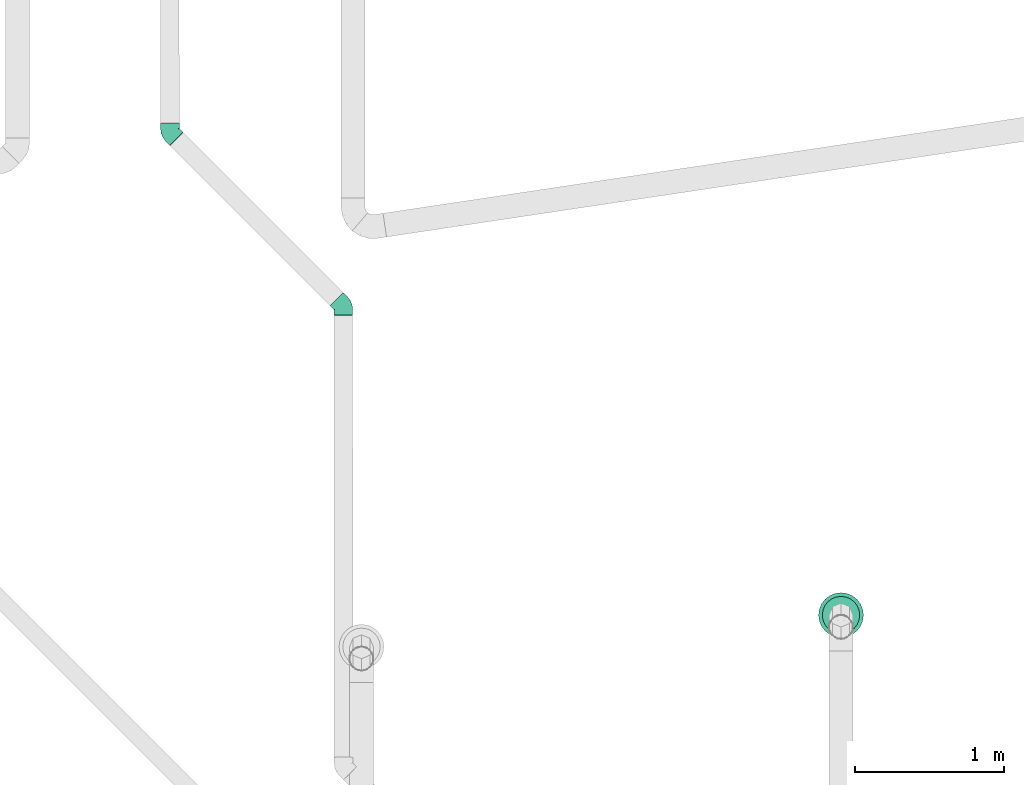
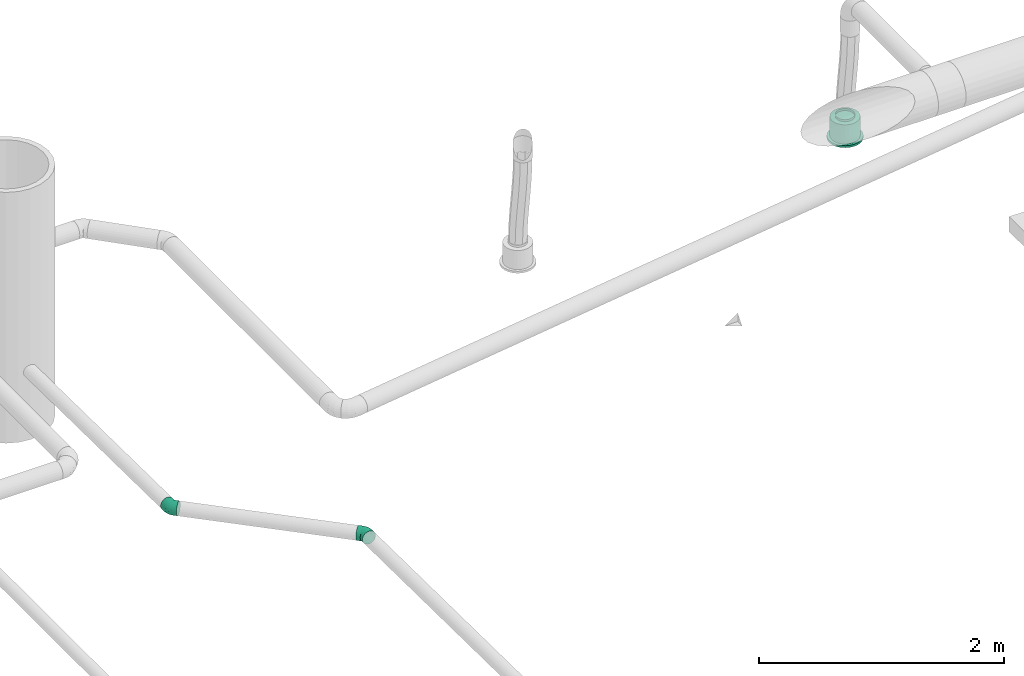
# One storey, part 156 of 374: 2 flow fittings, 1 flow terminal.
"""IFC2X3 building model written with IfcOpenShell, lengths in metres."""

from ifc_helpers import new_model, si_unit, direction, origin, place, context, subcontext, project, spatial, open_shell, surface_model, source, transform, mapped, element, save


model = new_model("IFC2X3")

# Units and contexts
model_context = context("Model", 3, precision=1e-05, world=origin(), true_north=direction((-0.4480736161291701, 0.8939966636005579)))
body_context = subcontext(model_context, "Body", "Model", "MODEL_VIEW")
ifc_project = project(units=[si_unit("LENGTHUNIT", "METRE"), si_unit("AREAUNIT", "SQUARE_METRE"), si_unit("VOLUMEUNIT", "CUBIC_METRE"), si_unit("PLANEANGLEUNIT", "RADIAN"), si_unit("THERMODYNAMICTEMPERATUREUNIT", "KELVIN"), si_unit("MASSUNIT", "GRAM", prefix="KILO"), si_unit("TIMEUNIT", "SECOND")], contexts=[model_context])

# Site, building, storey
site_placement = place(None, origin())
site = spatial("IfcSite", under=ifc_project, at=site_placement, Name="Site 1", CompositionType="ELEMENT")
building_placement = place(site_placement, origin())
building = spatial("IfcBuilding", under=site, at=building_placement, Name="Undefined", CompositionType="ELEMENT")
storey_placement = place(building_placement, origin())
storey = spatial("IfcBuildingStorey", under=building, at=storey_placement, Name="Rez de chauss\x8ee", CompositionType="ELEMENT", Elevation=0.0)

# Flow terminal
shared_shape_1 = source(origin(), body_context, "Body", "SurfaceModel", [
    surface_model("IfcFaceBasedSurfaceModel", [(0.0, 0.0, 0.0), (0.03915785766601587, 0.0, 0.0), (0.03915785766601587, 0.020000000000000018, 0.0), (3.552713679e-15, 0.020000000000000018, 0.0), (0.07698144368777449, 0.0, -0.010134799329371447), (0.07698144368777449, 0.020000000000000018, -0.010134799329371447), (0.11089314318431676, 0.0, -0.02971372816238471), (0.11089314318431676, 0.020000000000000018, -0.02971372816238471), (0.13858192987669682, 0.0, -0.05740251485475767), (0.13858192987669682, 0.020000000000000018, -0.05740251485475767), (0.15816085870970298, 0.0, -0.09131421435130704), (0.15816085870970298, 0.020000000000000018, -0.09131421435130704), (0.16829565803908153, 0.0, -0.12913780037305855), (0.16829565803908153, 0.020000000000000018, -0.12913780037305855), (0.16829565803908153, 0.0, -0.16829565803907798), (0.16829565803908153, 0.020000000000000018, -0.16829565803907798), (0.15816085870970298, 0.0, -0.20611924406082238), (0.15816085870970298, 0.020000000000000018, -0.20611924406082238), (0.13858192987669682, 0.0, -0.24003094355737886), (0.13858192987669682, 0.020000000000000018, -0.24003094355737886), (0.11089314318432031, 0.0, -0.2677197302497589), (0.11089314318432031, 0.020000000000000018, -0.2677197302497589), (0.07698144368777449, 0.0, -0.2872986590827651), (0.07698144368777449, 0.020000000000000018, -0.2872986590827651), (0.039157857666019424, 0.0, -0.29743345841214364), (0.039157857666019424, 0.020000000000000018, -0.29743345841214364), (3.552713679e-15, 0.0, -0.29743345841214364), (3.552713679e-15, 0.020000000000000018, -0.29743345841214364), (-0.03782358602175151, 0.0, -0.2872986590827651), (-0.03782358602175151, 0.020000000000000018, -0.2872986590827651), (-0.07173528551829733, 0.0, -0.2677197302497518), (-0.07173528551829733, 0.020000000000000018, -0.2677197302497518), (-0.0994240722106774, 0.0, -0.24003094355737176), (-0.0994240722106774, 0.020000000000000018, -0.24003094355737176), (-0.11900300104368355, 0.0, -0.2061192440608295), (-0.11900300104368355, 0.020000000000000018, -0.2061192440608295), (-0.1291378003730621, 0.0, -0.16829565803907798), (-0.1291378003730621, 0.020000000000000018, -0.16829565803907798), (-0.1291378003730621, 0.0, -0.12913780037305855), (-0.1291378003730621, 0.020000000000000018, -0.12913780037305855), (-0.11900300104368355, 0.0, -0.09131421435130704), (-0.11900300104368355, 0.020000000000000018, -0.09131421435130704), (-0.0994240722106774, 0.0, -0.05740251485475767), (-0.0994240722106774, 0.020000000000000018, -0.05740251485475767), (-0.07173528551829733, 0.0, -0.029713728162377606), (-0.07173528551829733, 0.020000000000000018, -0.029713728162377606), (-0.03782358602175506, 0.0, -0.010134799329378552), (-0.03782358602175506, 0.020000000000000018, -0.010134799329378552), (0.019578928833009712, 0.0, -0.14871672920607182), (0.019578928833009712, 0.020000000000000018, -0.14871672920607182), (0.003263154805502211, 0.020000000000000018, -0.02478612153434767), (0.035894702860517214, 0.020000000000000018, -0.02478612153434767), (0.035894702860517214, 0.20999999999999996, -0.02478612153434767), (0.003263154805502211, 0.20999999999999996, -0.02478612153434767), (0.06741435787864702, 0.020000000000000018, -0.033231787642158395), (0.06741435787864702, 0.20999999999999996, -0.033231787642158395), (0.0956741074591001, 0.020000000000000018, -0.04954756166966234), (0.0956741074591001, 0.20999999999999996, -0.04954756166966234), (0.11874809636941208, 0.020000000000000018, -0.07262155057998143), (0.11874809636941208, 0.20999999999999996, -0.07262155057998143), (0.13506387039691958, 0.020000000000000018, -0.10088130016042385), (0.13506387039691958, 0.20999999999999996, -0.10088130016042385), (0.1435095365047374, 0.020000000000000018, -0.13240095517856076), (0.1435095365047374, 0.20999999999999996, -0.13240095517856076), (0.1435095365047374, 0.020000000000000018, -0.16503250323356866), (0.1435095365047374, 0.20999999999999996, -0.16503250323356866), (0.13506387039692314, 0.020000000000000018, -0.19655215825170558), (0.13506387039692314, 0.20999999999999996, -0.19655215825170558), (0.11874809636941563, 0.020000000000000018, -0.2248119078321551), (0.11874809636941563, 0.20999999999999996, -0.2248119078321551), (0.09567410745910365, 0.020000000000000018, -0.24788589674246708), (0.09567410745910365, 0.20999999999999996, -0.24788589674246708), (0.06741435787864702, 0.020000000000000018, -0.26420167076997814), (0.06741435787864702, 0.20999999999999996, -0.26420167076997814), (0.035894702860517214, 0.020000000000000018, -0.27264733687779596), (0.035894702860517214, 0.20999999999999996, -0.27264733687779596), (0.0032631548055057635, 0.020000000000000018, -0.27264733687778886), (0.0032631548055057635, 0.20999999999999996, -0.27264733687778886), (-0.028256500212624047, 0.020000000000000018, -0.26420167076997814), (-0.028256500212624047, 0.20999999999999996, -0.26420167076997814), (-0.05651624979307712, 0.020000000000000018, -0.2478858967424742), (-0.05651624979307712, 0.20999999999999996, -0.2478858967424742), (-0.07959023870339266, 0.020000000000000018, -0.2248119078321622), (-0.07959023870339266, 0.20999999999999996, -0.2248119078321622), (-0.09590601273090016, 0.020000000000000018, -0.19655215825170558), (-0.09590601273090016, 0.20999999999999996, -0.19655215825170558), (-0.10435167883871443, 0.020000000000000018, -0.16503250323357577), (-0.10435167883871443, 0.20999999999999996, -0.16503250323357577), (-0.10435167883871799, 0.020000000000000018, -0.13240095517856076), (-0.10435167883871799, 0.20999999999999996, -0.13240095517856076), (-0.09590601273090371, 0.020000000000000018, -0.10088130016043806), (-0.09590601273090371, 0.20999999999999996, -0.10088130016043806), (-0.07959023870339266, 0.020000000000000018, -0.07262155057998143), (-0.07959023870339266, 0.20999999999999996, -0.07262155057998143), (-0.056516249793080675, 0.020000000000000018, -0.04954756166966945), (-0.056516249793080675, 0.20999999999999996, -0.04954756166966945), (-0.028256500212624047, 0.020000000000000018, -0.033231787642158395), (-0.028256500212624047, 0.20999999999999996, -0.033231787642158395), (0.019578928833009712, 0.20999999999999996, -0.14871672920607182), (0.009136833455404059, 0.20999999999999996, -0.06940114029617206), (0.030021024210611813, 0.20999999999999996, -0.06940114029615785), (0.030021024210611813, 0.22999999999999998, -0.06940114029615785), (0.009136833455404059, 0.22999999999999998, -0.06940114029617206), (0.05019360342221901, 0.20999999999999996, -0.07480636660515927), (0.05019360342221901, 0.22999999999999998, -0.07480636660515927), (0.06827984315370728, 0.20999999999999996, -0.08524846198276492), (0.06827984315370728, 0.22999999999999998, -0.08524846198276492), (0.0830471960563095, 0.20999999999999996, -0.10001581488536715), (0.0830471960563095, 0.22999999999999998, -0.10001581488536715), (0.0934892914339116, 0.20999999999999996, -0.11810205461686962), (0.0934892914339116, 0.22999999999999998, -0.11810205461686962), (0.09889451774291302, 0.20999999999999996, -0.13827463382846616), (0.09889451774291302, 0.22999999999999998, -0.13827463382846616), (0.09889451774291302, 0.20999999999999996, -0.15915882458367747), (0.09889451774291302, 0.22999999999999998, -0.15915882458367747), (0.09348929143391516, 0.20999999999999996, -0.179331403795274), (0.09348929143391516, 0.22999999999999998, -0.179331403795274), (0.0830471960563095, 0.20999999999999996, -0.19741764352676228), (0.0830471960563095, 0.22999999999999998, -0.19741764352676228), (0.06827984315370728, 0.20999999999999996, -0.2121849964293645), (0.06827984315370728, 0.22999999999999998, -0.2121849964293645), (0.05019360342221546, 0.20999999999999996, -0.22262709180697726), (0.05019360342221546, 0.22999999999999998, -0.22262709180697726), (0.030021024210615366, 0.20999999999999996, -0.22803231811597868), (0.030021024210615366, 0.22999999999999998, -0.22803231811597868), (0.009136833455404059, 0.20999999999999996, -0.22803231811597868), (0.009136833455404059, 0.22999999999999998, -0.22803231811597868), (-0.011035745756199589, 0.20999999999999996, -0.22262709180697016), (-0.011035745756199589, 0.22999999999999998, -0.22262709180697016), (-0.0291219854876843, 0.20999999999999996, -0.2121849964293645), (-0.0291219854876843, 0.22999999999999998, -0.2121849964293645), (-0.043889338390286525, 0.20999999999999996, -0.19741764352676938), (-0.043889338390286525, 0.22999999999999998, -0.19741764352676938), (-0.05433143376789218, 0.20999999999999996, -0.17933140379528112), (-0.05433143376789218, 0.22999999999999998, -0.17933140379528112), (-0.05973666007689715, 0.20999999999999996, -0.15915882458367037), (-0.05973666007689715, 0.22999999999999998, -0.15915882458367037), (-0.0597366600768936, 0.20999999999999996, -0.13827463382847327), (-0.0597366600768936, 0.22999999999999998, -0.13827463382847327), (-0.05433143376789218, 0.20999999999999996, -0.11810205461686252), (-0.05433143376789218, 0.22999999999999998, -0.11810205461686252), (-0.043889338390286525, 0.20999999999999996, -0.10001581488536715), (-0.043889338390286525, 0.22999999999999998, -0.10001581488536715), (-0.02912198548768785, 0.20999999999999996, -0.08524846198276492), (-0.02912198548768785, 0.22999999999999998, -0.08524846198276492), (-0.011035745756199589, 0.20999999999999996, -0.07480636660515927), (-0.011035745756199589, 0.22999999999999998, -0.07480636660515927)], [open_shell([[[0, 1, 2, 3]], [[1, 4, 5, 2]], [[4, 6, 7, 5]], [[6, 8, 9, 7]], [[8, 10, 11, 9]], [[10, 12, 13, 11]], [[12, 14, 15, 13]], [[14, 16, 17, 15]], [[16, 18, 19, 17]], [[18, 20, 21, 19]], [[20, 22, 23, 21]], [[22, 24, 25, 23]], [[24, 26, 27, 25]], [[26, 28, 29, 27]], [[28, 30, 31, 29]], [[30, 32, 33, 31]], [[32, 34, 35, 33]], [[34, 36, 37, 35]], [[36, 38, 39, 37]], [[38, 40, 41, 39]], [[40, 42, 43, 41]], [[42, 44, 45, 43]], [[44, 46, 47, 45]], [[46, 0, 3, 47]], [[48, 1, 0]], [[48, 4, 1]], [[48, 6, 4]], [[48, 8, 6]], [[48, 10, 8]], [[48, 12, 10]], [[48, 14, 12]], [[48, 16, 14]], [[48, 18, 16]], [[48, 20, 18]], [[48, 22, 20]], [[48, 24, 22]], [[48, 26, 24]], [[48, 28, 26]], [[48, 30, 28]], [[48, 32, 30]], [[48, 34, 32]], [[48, 36, 34]], [[48, 38, 36]], [[48, 40, 38]], [[48, 42, 40]], [[48, 44, 42]], [[48, 46, 44]], [[48, 0, 46]], [[49, 47, 3]], [[49, 45, 47]], [[49, 43, 45]], [[49, 41, 43]], [[49, 39, 41]], [[49, 37, 39]], [[49, 35, 37]], [[49, 33, 35]], [[49, 31, 33]], [[49, 29, 31]], [[49, 27, 29]], [[49, 25, 27]], [[49, 23, 25]], [[49, 21, 23]], [[49, 19, 21]], [[49, 17, 19]], [[49, 15, 17]], [[49, 13, 15]], [[49, 11, 13]], [[49, 9, 11]], [[49, 7, 9]], [[49, 5, 7]], [[49, 2, 5]], [[49, 3, 2]], [[50, 51, 52, 53]], [[51, 54, 55, 52]], [[54, 56, 57, 55]], [[56, 58, 59, 57]], [[58, 60, 61, 59]], [[60, 62, 63, 61]], [[62, 64, 65, 63]], [[64, 66, 67, 65]], [[66, 68, 69, 67]], [[68, 70, 71, 69]], [[70, 72, 73, 71]], [[72, 74, 75, 73]], [[74, 76, 77, 75]], [[76, 78, 79, 77]], [[78, 80, 81, 79]], [[80, 82, 83, 81]], [[82, 84, 85, 83]], [[84, 86, 87, 85]], [[86, 88, 89, 87]], [[88, 90, 91, 89]], [[90, 92, 93, 91]], [[92, 94, 95, 93]], [[94, 96, 97, 95]], [[96, 50, 53, 97]], [[49, 51, 50]], [[49, 54, 51]], [[49, 56, 54]], [[49, 58, 56]], [[49, 60, 58]], [[49, 62, 60]], [[49, 64, 62]], [[49, 66, 64]], [[49, 68, 66]], [[49, 70, 68]], [[49, 72, 70]], [[49, 74, 72]], [[49, 76, 74]], [[49, 78, 76]], [[49, 80, 78]], [[49, 82, 80]], [[49, 84, 82]], [[49, 86, 84]], [[49, 88, 86]], [[49, 90, 88]], [[49, 92, 90]], [[49, 94, 92]], [[49, 96, 94]], [[49, 50, 96]], [[98, 97, 53]], [[98, 95, 97]], [[98, 93, 95]], [[98, 91, 93]], [[98, 89, 91]], [[98, 87, 89]], [[98, 85, 87]], [[98, 83, 85]], [[98, 81, 83]], [[98, 79, 81]], [[98, 77, 79]], [[98, 75, 77]], [[98, 73, 75]], [[98, 71, 73]], [[98, 69, 71]], [[98, 67, 69]], [[98, 65, 67]], [[98, 63, 65]], [[98, 61, 63]], [[98, 59, 61]], [[98, 57, 59]], [[98, 55, 57]], [[98, 52, 55]], [[98, 53, 52]], [[99, 100, 101, 102]], [[100, 103, 104, 101]], [[103, 105, 106, 104]], [[105, 107, 108, 106]], [[107, 109, 110, 108]], [[109, 111, 112, 110]], [[111, 113, 114, 112]], [[113, 115, 116, 114]], [[115, 117, 118, 116]], [[117, 119, 120, 118]], [[119, 121, 122, 120]], [[121, 123, 124, 122]], [[123, 125, 126, 124]], [[125, 127, 128, 126]], [[127, 129, 130, 128]], [[129, 131, 132, 130]], [[131, 133, 134, 132]], [[133, 135, 136, 134]], [[135, 137, 138, 136]], [[137, 139, 140, 138]], [[139, 141, 142, 140]], [[141, 143, 144, 142]], [[143, 145, 146, 144]], [[145, 99, 102, 146]]])]),
])
flow_terminal_placement = place(storey_placement, origin())
element("IfcFlowTerminal", 1, at=flow_terminal_placement, inside=storey, Name="Air diffuseur - bouche", ObjectType="Air diffuseur - bouche", context=body_context, shape_type="MappedRepresentation", body=[
    mapped(shared_shape_1, transform((41.5011844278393, 21.928913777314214, 2.38), x_axis=(0.9914448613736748, 0.13052619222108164, 0.0), y_axis=(0.0, 0.0, 1.0), z_axis=(0.13052619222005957, -0.9914448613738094, 0.0))),
])

# Flow fittings
shared_shape_2 = source(origin(), body_context, "Body", "SurfaceModel", [
    surface_model("IfcFaceBasedSurfaceModel", [(0.0, 0.0163157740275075, 0.0), (0.0, 0.0, 0.0), (0.03640000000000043, 0.0, 0.0), (0.03640000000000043, 0.01631577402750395, -8.8817842e-16), (0.0, -0.015759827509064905, -0.004222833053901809), (0.03640000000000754, -0.01575982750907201, -0.00422283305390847), (0.0, -0.029889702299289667, -0.012380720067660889), (0.03640000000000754, -0.02988970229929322, -0.012380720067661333), (0.0, -0.04142669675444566, -0.02391771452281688), (0.03640000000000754, -0.04142669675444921, -0.023917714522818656), (0.0, -0.04958458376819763, -0.038047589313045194), (0.03640000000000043, -0.04958458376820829, -0.038047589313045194), (0.0, -0.053807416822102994, -0.053807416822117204), (0.03640000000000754, -0.053807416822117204, -0.05380741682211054), (0.0, -0.053807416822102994, -0.07012319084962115), (0.03639999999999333, -0.053807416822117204, -0.07012319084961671), (0.0, -0.04958458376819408, -0.08588301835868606), (0.03640000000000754, -0.04958458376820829, -0.08588301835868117), (0.0, -0.04142669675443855, -0.10001289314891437), (0.03640000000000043, -0.041426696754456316, -0.1000128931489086), (0.0, -0.02988970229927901, -0.11154988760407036), (0.03640000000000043, -0.02988970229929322, -0.11154988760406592), (0.0, -0.015759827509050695, -0.11970777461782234), (0.03640000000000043, -0.015759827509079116, -0.11970777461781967), (0.0, 1.4210854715e-14, -0.12393060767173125), (0.03640000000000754, -1.4210854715e-14, -0.12393060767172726), (0.0, 0.016315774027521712, -0.12393060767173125), (0.03640000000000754, 0.01631577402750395, -0.12393060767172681), (0.0, 0.03207560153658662, -0.11970777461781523), (0.03640000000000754, 0.032075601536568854, -0.11970777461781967), (0.0, 0.04620547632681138, -0.11154988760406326), (0.03640000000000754, 0.04620547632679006, -0.11154988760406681), (0.0, 0.05774247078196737, -0.10001289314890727), (0.03640000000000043, 0.05774247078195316, -0.10001289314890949), (0.0, 0.06590035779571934, -0.08588301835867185), (0.03640000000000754, 0.06590035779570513, -0.08588301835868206), (0.0, 0.0701231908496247, -0.07012319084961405), (0.03640000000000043, 0.07012319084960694, -0.07012319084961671), (0.0, 0.0701231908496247, -0.05380741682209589), (0.03640000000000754, 0.07012319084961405, -0.05380741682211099), (0.0, 0.06590035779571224, -0.03804758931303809), (0.03640000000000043, 0.06590035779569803, -0.03804758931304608), (0.0, 0.05774247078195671, -0.023917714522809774), (0.03640000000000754, 0.057742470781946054, -0.0239177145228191), (0.0, 0.04620547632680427, -0.012380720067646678), (0.03640000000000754, 0.04620547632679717, -0.012380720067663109), (0.0, 0.03207560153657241, -0.004222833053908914), (0.03640000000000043, 0.032075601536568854, -0.00422283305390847), (0.06832402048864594, -0.04964138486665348, -0.07067165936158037), (0.06887509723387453, -0.04956947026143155, -0.054365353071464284), (0.09807338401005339, -0.037427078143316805, -0.0722797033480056), (0.09913799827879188, -0.037144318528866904, -0.056001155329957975), (0.12362157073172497, -0.0179965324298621, -0.07483778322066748), (0.12512720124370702, -0.017378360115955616, -0.05860339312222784), (0.06670834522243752, -0.04562939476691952, -0.08640372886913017), (0.09495209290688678, -0.034033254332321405, -0.08793038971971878), (0.11920728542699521, -0.01558608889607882, -0.09035900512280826), (0.06413817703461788, -0.037806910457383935, -0.100489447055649), (0.08998683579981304, -0.027194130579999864, -0.10188664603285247), (0.11218517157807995, -0.010311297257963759, -0.10410931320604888), (0.060788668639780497, -0.026707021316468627, -0.11196889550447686), (0.08351598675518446, -0.01737578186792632, -0.11319737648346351), (0.10303377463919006, -0.0025316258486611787, -0.11515164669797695), (0.05688808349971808, -0.013086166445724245, -0.12005976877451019), (0.07598052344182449, -0.00524731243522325, -0.1210917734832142), (0.09237674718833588, 0.00722275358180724, -0.1227334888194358), (0.05270224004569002, 0.0021274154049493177, -0.12421068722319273), (0.06789397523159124, 0.008364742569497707, -0.12503184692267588), (0.08094034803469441, 0.018287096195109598, -0.1263381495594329), (0.04851639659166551, 0.017896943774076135, -0.1241387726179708), (0.05980742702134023, 0.02253274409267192, -0.12474908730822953), (0.06950394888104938, 0.029907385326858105, -0.12571997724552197), (0.044615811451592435, 0.03314775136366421, -0.11984892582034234), (0.05227196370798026, 0.036291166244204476, -0.12026276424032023), (0.058846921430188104, 0.04129171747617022, -0.12092109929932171), (0.04126630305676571, 0.04684052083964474, -0.11163349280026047), (0.045801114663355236, 0.04870239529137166, -0.11187861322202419), (0.04969552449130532, 0.05166426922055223, -0.11226855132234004), (0.038696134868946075, 0.05804211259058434, -0.10005234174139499), (0.040835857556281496, 0.058920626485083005, -0.10016800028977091), (0.04267341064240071, 0.060318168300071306, -0.10035199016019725), (0.0370804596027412, 0.06598915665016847, -0.08589470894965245), (0.03771456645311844, 0.06624950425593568, -0.08592898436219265), (0.038259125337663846, 0.06666366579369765, -0.08598350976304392), (0.03652938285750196, 0.07014007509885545, -0.07012541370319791), (0.03664995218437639, 0.07018957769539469, -0.07013193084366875), (0.0367534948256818, 0.07026832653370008, -0.07014229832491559), (0.037080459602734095, 0.07021198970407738, -0.053819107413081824), (0.03771456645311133, 0.07047233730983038, -0.053853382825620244), (0.038259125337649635, 0.07088649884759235, -0.05390790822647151), (0.038696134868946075, 0.06619999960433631, -0.03808703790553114), (0.040835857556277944, 0.06707851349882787, -0.03820269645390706), (0.04267341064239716, 0.06847605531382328, -0.038386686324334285), (0.04126630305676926, 0.05837751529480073, -0.024001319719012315), (0.04580111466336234, 0.060239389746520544, -0.024246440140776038), (0.04969552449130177, 0.06320126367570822, -0.024636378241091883), (0.04461581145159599, 0.04727762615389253, -0.012521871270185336), (0.05227196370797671, 0.050421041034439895, -0.012935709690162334), (0.058846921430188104, 0.055421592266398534, -0.013594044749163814), (0.04851639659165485, 0.03365677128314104, -0.004430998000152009), (0.05980742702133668, 0.038292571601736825, -0.005041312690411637), (0.06950394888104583, 0.045667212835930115, -0.006012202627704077), (0.05270224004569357, 0.018443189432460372, -0.00028007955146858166), (0.06789397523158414, 0.02468051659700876, -0.0011012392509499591), (0.0809403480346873, 0.03460287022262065, -0.0024075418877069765), (0.056888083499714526, 0.00267366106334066, -0.00035199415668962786), (0.07598052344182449, 0.01051251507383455, -0.0013839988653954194), (0.09237674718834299, 0.02298258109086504, -0.0030257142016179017), (0.06078866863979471, -0.012577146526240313, -0.004641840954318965), (0.08351598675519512, -0.003245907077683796, -0.005870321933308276), (0.10303377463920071, 0.01159824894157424, -0.00782459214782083), (0.06413817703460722, -0.02626991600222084, -0.01285727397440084), (0.08998683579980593, -0.015657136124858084, -0.014254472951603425), (0.1121851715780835, 0.0012256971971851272, -0.01647714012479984), (0.06670834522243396, -0.03747150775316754, -0.02443842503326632), (0.09495209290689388, -0.02587536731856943, -0.025965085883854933), (0.11920728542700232, -0.007428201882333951, -0.028393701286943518), (0.06832402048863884, -0.04541855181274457, -0.03859605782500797), (0.09807338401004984, -0.0332042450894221, -0.0402041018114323), (0.12362157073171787, -0.013773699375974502, -0.04276218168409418), (0.14936452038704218, 0.007517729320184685, -0.07819679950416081), (0.15087015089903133, 0.00813590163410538, -0.06196240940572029), (0.14495023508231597, 0.009928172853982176, -0.09371802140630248), (0.1379281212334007, 0.015202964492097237, -0.1074683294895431), (0.12877672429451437, 0.022982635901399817, -0.11851066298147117), (0.11811969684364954, 0.03273701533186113, -0.12609250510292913), (0.10668329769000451, 0.043801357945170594, -0.12969716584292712), (0.09524689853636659, 0.055421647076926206, -0.12907899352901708), (0.0845898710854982, 0.06680597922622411, -0.12428011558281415), (0.07543847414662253, 0.07717853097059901, -0.1156275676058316), (0.06841636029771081, 0.0858324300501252, -0.10371100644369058), (0.06400207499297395, 0.09217792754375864, -0.08934252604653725), (0.06249644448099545, 0.09578258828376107, -0.07350131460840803), (0.0640020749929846, 0.09640076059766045, -0.05726692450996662), (0.06841636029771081, 0.09399031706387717, -0.04174570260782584), (0.07543847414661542, 0.08871552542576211, -0.027995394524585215), (0.0845898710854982, 0.08093585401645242, -0.016953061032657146), (0.09524689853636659, 0.07118147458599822, -0.009371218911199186), (0.10668329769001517, 0.06011713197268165, -0.005766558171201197), (0.11811969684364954, 0.048496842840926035, -0.006384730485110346), (0.12877672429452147, 0.03711251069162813, -0.011183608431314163), (0.13792812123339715, 0.02673995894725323, -0.019836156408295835), (0.14495023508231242, 0.01808605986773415, -0.03175271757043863), (0.14936452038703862, 0.011740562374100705, -0.04612119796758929)], [open_shell([[[0, 1, 2, 3]], [[1, 4, 5, 2]], [[4, 6, 7, 5]], [[6, 8, 9, 7]], [[8, 10, 11, 9]], [[10, 12, 13, 11]], [[12, 14, 15, 13]], [[14, 16, 17, 15]], [[16, 18, 19, 17]], [[18, 20, 21, 19]], [[20, 22, 23, 21]], [[22, 24, 25, 23]], [[24, 26, 27, 25]], [[26, 28, 29, 27]], [[28, 30, 31, 29]], [[30, 32, 33, 31]], [[32, 34, 35, 33]], [[34, 36, 37, 35]], [[36, 38, 39, 37]], [[38, 40, 41, 39]], [[40, 42, 43, 41]], [[42, 44, 45, 43]], [[44, 46, 47, 45]], [[46, 0, 3, 47]], [[13, 15, 48, 49]], [[49, 48, 50, 51]], [[51, 50, 52, 53]], [[15, 17, 54, 48]], [[48, 54, 55, 50]], [[50, 55, 56, 52]], [[17, 19, 57, 54]], [[54, 57, 58, 55]], [[55, 58, 59, 56]], [[19, 21, 60, 57]], [[57, 60, 61, 58]], [[58, 61, 62, 59]], [[21, 23, 63, 60]], [[60, 63, 64, 61]], [[61, 64, 65, 62]], [[23, 25, 66, 63]], [[63, 66, 67, 64]], [[64, 67, 68, 65]], [[25, 27, 69, 66]], [[66, 69, 70, 67]], [[67, 70, 71, 68]], [[27, 29, 72, 69]], [[69, 72, 73, 70]], [[70, 73, 74, 71]], [[29, 31, 75, 72]], [[72, 75, 76, 73]], [[73, 76, 77, 74]], [[31, 33, 78, 75]], [[75, 78, 79, 76]], [[76, 79, 80, 77]], [[33, 35, 81, 78]], [[78, 81, 82, 79]], [[79, 82, 83, 80]], [[35, 37, 84, 81]], [[81, 84, 85, 82]], [[82, 85, 86, 83]], [[37, 39, 87, 84]], [[84, 87, 88, 85]], [[85, 88, 89, 86]], [[39, 41, 90, 87]], [[87, 90, 91, 88]], [[88, 91, 92, 89]], [[41, 43, 93, 90]], [[90, 93, 94, 91]], [[91, 94, 95, 92]], [[43, 45, 96, 93]], [[93, 96, 97, 94]], [[94, 97, 98, 95]], [[45, 47, 99, 96]], [[96, 99, 100, 97]], [[97, 100, 101, 98]], [[47, 3, 102, 99]], [[99, 102, 103, 100]], [[100, 103, 104, 101]], [[3, 2, 105, 102]], [[102, 105, 106, 103]], [[103, 106, 107, 104]], [[2, 5, 108, 105]], [[105, 108, 109, 106]], [[106, 109, 110, 107]], [[5, 7, 111, 108]], [[108, 111, 112, 109]], [[109, 112, 113, 110]], [[7, 9, 114, 111]], [[111, 114, 115, 112]], [[112, 115, 116, 113]], [[9, 11, 117, 114]], [[114, 117, 118, 115]], [[115, 118, 119, 116]], [[11, 13, 49, 117]], [[117, 49, 51, 118]], [[118, 51, 53, 119]], [[53, 52, 120, 121]], [[52, 56, 122, 120]], [[56, 59, 123, 122]], [[59, 62, 124, 123]], [[62, 65, 125, 124]], [[65, 68, 126, 125]], [[68, 71, 127, 126]], [[71, 74, 128, 127]], [[74, 77, 129, 128]], [[77, 80, 130, 129]], [[80, 83, 131, 130]], [[83, 86, 132, 131]], [[86, 89, 133, 132]], [[89, 92, 134, 133]], [[92, 95, 135, 134]], [[95, 98, 136, 135]], [[98, 101, 137, 136]], [[101, 104, 138, 137]], [[104, 107, 139, 138]], [[107, 110, 140, 139]], [[110, 113, 141, 140]], [[113, 116, 142, 141]], [[116, 119, 143, 142]], [[119, 53, 121, 143]]])]),
])
flow_fitting_1_placement = place(storey_placement, origin())
element("IfcFlowFitting", 2, at=flow_fitting_1_placement, inside=storey, Name="PE-HD coude 45°", ObjectType="PE-HD coude 45°", context=body_context, shape_type="MappedRepresentation", body=[
    mapped(shared_shape_2, transform((38.187568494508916, 24.085863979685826, -1.6006652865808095), x_axis=(-6.564632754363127e-05, 0.9998999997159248, -0.014141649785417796), y_axis=(-0.993191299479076, 0.001582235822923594, 0.11648407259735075), z_axis=(0.11649479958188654, 0.014053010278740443, 0.9930918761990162))),
])
flow_fitting_2_placement = place(storey_placement, origin())
element("IfcFlowFitting", 3, at=flow_fitting_2_placement, inside=storey, Name="PE-HD coude 45°", ObjectType="PE-HD coude 45°", context=body_context, shape_type="MappedRepresentation", body=[
    mapped(shared_shape_2, transform((37.045236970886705, 25.251619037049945, -1.7540714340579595), x_axis=(-0.7069654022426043, 0.7069654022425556, -0.01999600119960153), y_axis=(0.7029029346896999, 0.6992118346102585, -0.13050009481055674), z_axis=(-0.07827761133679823, -0.10631429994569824, -0.991246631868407))),
])

save(model, "model.ifc")
